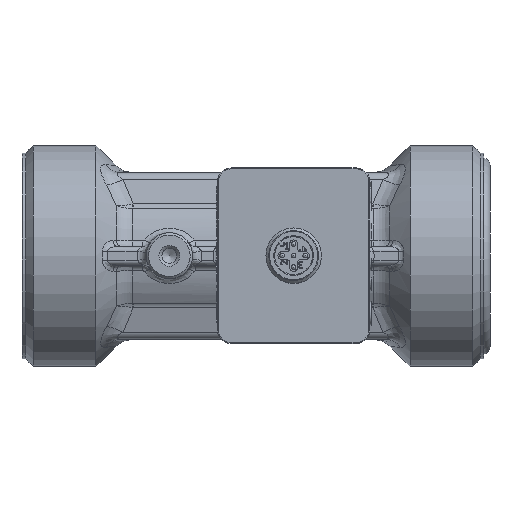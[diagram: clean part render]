
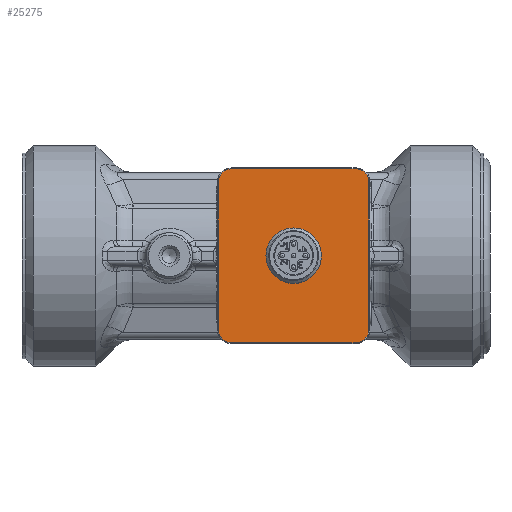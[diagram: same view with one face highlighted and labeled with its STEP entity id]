
A CAD part, top view. The second image highlights one B-rep face of the part: STEP entity #25275.
In plain terms, the highlighted planar face has unit normal (0, 0, 1).
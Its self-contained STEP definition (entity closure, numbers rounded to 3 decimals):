
#1245=FACE_BOUND('',#4850,.T.);
#1983=PLANE('',#26964);
#3351=FACE_OUTER_BOUND('',#4849,.T.);
#4849=EDGE_LOOP('',(#23051,#23052,#23053,#23054,#23055,#23056,#23057,#23058));
#4850=EDGE_LOOP('',(#23059));
#7089=LINE('',#48293,#9388);
#7091=LINE('',#48310,#9390);
#7092=LINE('',#48314,#9391);
#7094=LINE('',#48329,#9393);
#9388=VECTOR('',#32203,10.);
#9390=VECTOR('',#32227,10.);
#9391=VECTOR('',#32232,10.);
#9393=VECTOR('',#32252,10.);
#10176=CIRCLE('',#26941,2.8);
#10180=CIRCLE('',#26946,2.8);
#10184=CIRCLE('',#26953,2.8);
#10188=CIRCLE('',#26958,2.8);
#10189=CIRCLE('',#26965,6.);
#12455=VERTEX_POINT('',#48290);
#12456=VERTEX_POINT('',#48292);
#12458=VERTEX_POINT('',#48298);
#12459=VERTEX_POINT('',#48303);
#12460=VERTEX_POINT('',#48308);
#12461=VERTEX_POINT('',#48312);
#12463=VERTEX_POINT('',#48317);
#12464=VERTEX_POINT('',#48322);
#12466=VERTEX_POINT('',#48338);
#16040=EDGE_CURVE('',#12455,#12456,#7089,.T.);
#16044=EDGE_CURVE('',#12458,#12455,#10176,.T.);
#16048=EDGE_CURVE('',#12456,#12459,#10180,.T.);
#16050=EDGE_CURVE('',#12460,#12458,#7091,.T.);
#16052=EDGE_CURVE('',#12459,#12461,#7092,.T.);
#16054=EDGE_CURVE('',#12463,#12460,#10184,.T.);
#16058=EDGE_CURVE('',#12461,#12464,#10188,.T.);
#16060=EDGE_CURVE('',#12464,#12463,#7094,.T.);
#16064=EDGE_CURVE('',#12466,#12466,#10189,.T.);
#23051=ORIENTED_EDGE('',*,*,#16040,.F.);
#23052=ORIENTED_EDGE('',*,*,#16044,.F.);
#23053=ORIENTED_EDGE('',*,*,#16050,.F.);
#23054=ORIENTED_EDGE('',*,*,#16054,.F.);
#23055=ORIENTED_EDGE('',*,*,#16060,.F.);
#23056=ORIENTED_EDGE('',*,*,#16058,.F.);
#23057=ORIENTED_EDGE('',*,*,#16052,.F.);
#23058=ORIENTED_EDGE('',*,*,#16048,.F.);
#23059=ORIENTED_EDGE('',*,*,#16064,.T.);
#25275=ADVANCED_FACE('',(#3351,#1245),#1983,.F.);
#26941=AXIS2_PLACEMENT_3D('',#48300,#32211,#32212);
#26946=AXIS2_PLACEMENT_3D('',#48306,#32221,#32222);
#26953=AXIS2_PLACEMENT_3D('',#48319,#32237,#32238);
#26958=AXIS2_PLACEMENT_3D('',#48326,#32247,#32248);
#26964=AXIS2_PLACEMENT_3D('',#48337,#32264,#32265);
#26965=AXIS2_PLACEMENT_3D('',#48339,#32266,#32267);
#32203=DIRECTION('',(-1.,0.,0.));
#32211=DIRECTION('center_axis',(0.,0.,
-1.));
#32212=DIRECTION('ref_axis',(0.707,-0.707,0.));
#32221=DIRECTION('center_axis',(0.,0.,
-1.));
#32222=DIRECTION('ref_axis',(-0.707,-0.707,0.));
#32227=DIRECTION('',(0.,-1.,0.));
#32232=DIRECTION('',(0.,1.,0.));
#32237=DIRECTION('center_axis',(0.,0.,
-1.));
#32238=DIRECTION('ref_axis',(0.707,0.707,0.));
#32247=DIRECTION('center_axis',(0.,0.,
-1.));
#32248=DIRECTION('ref_axis',(-0.707,0.707,0.));
#32252=DIRECTION('',(1.,0.,0.));
#32264=DIRECTION('center_axis',(0.,0.,
-1.));
#32265=DIRECTION('ref_axis',(-1.,0.,0.));
#32266=DIRECTION('center_axis',(0.,0.,
-1.));
#32267=DIRECTION('ref_axis',(-1.,0.,0.));
#48290=CARTESIAN_POINT('',(20.4,-18.8,36.7));
#48292=CARTESIAN_POINT('',(-6.6,-18.8,36.7));
#48293=CARTESIAN_POINT('',(13.65,-18.8,36.7));
#48298=CARTESIAN_POINT('',(23.2,-16.,36.7));
#48300=CARTESIAN_POINT('Origin',(20.4,-16.,36.7));
#48303=CARTESIAN_POINT('',(-9.4,-16.,36.7));
#48306=CARTESIAN_POINT('Origin',(-6.6,-16.,36.7));
#48308=CARTESIAN_POINT('',(23.2,16.,36.7));
#48310=CARTESIAN_POINT('',(23.2,8.,36.7));
#48312=CARTESIAN_POINT('',(-9.4,16.,36.7));
#48314=CARTESIAN_POINT('',(-9.4,-8.,36.7));
#48317=CARTESIAN_POINT('',(20.4,18.8,36.7));
#48319=CARTESIAN_POINT('Origin',(20.4,16.,36.7));
#48322=CARTESIAN_POINT('',(-6.6,18.8,36.7));
#48326=CARTESIAN_POINT('Origin',(-6.6,16.,36.7));
#48329=CARTESIAN_POINT('',(0.15,18.8,36.7));
#48337=CARTESIAN_POINT('Origin',(6.9,0.,
36.7));
#48338=CARTESIAN_POINT('',(12.9,0.,36.7));
#48339=CARTESIAN_POINT('Origin',(6.9,0.,
36.7));
